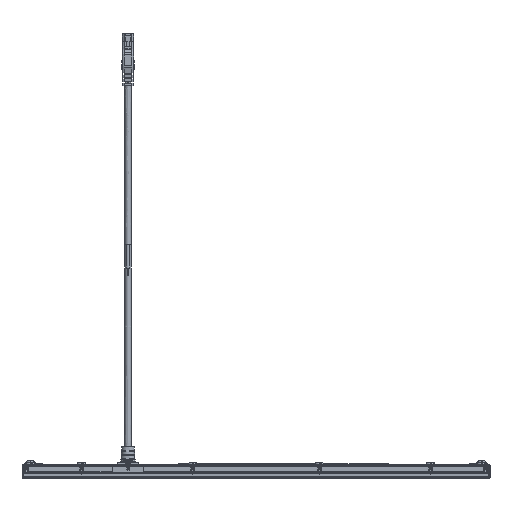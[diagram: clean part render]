
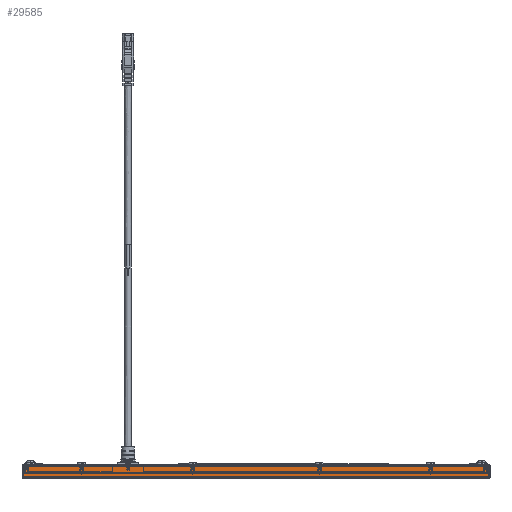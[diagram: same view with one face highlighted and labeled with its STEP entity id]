
A CAD part, left-side view. The second image highlights one B-rep face of the part: STEP entity #29585.
In plain terms, the highlighted free-form (B-spline) face has degree [3, 3] with [7, 4] control points.
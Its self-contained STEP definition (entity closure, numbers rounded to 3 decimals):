
#1217=CARTESIAN_POINT('',(-597.5,147.5,0.5));
#1260=CARTESIAN_POINT('',(-597.5,-147.5,0.5));
#1261=CARTESIAN_POINT('',(-597.522,-147.522,
1.327));
#1262=CARTESIAN_POINT('',(-597.538,-147.538,
3.001));
#1263=CARTESIAN_POINT('',(-597.516,-147.516,
5.57));
#1264=CARTESIAN_POINT('',(-597.5,-147.5,7.321));
#1265=CARTESIAN_POINT('',(-597.5,-147.5,8.206));
#1394=DIRECTION('',(0.,-1.,0.));
#1395=VECTOR('',#1394,295.);
#1396=CARTESIAN_POINT('',(-597.5,147.5,0.5));
#1397=LINE('',#1396,#1395);
#1405=DIRECTION('',(0.,0.,-1.));
#1406=VECTOR('',#1405,7.706);
#1407=CARTESIAN_POINT('',(-597.5,147.5,8.206));
#1408=LINE('',#1407,#1406);
#1418=DIRECTION('',(0.,1.,0.));
#1419=VECTOR('',#1418,295.);
#1420=CARTESIAN_POINT('',(-597.5,-147.5,8.206));
#1421=LINE('',#1420,#1419);
#21321=VERTEX_POINT('',#1217);
#21322=CARTESIAN_POINT('',(-597.5,147.5,8.206));
#21323=VERTEX_POINT('',#21322);
#21397=CARTESIAN_POINT('',(-597.5,-147.5,8.206));
#21398=VERTEX_POINT('',#21397);
#21399=VERTEX_POINT('',#1260);
#29549=CARTESIAN_POINT('',(-597.48,-153.431,
-0.26));
#29550=CARTESIAN_POINT('',(-597.596,-153.431,
2.814));
#29551=CARTESIAN_POINT('',(-597.483,-153.431,
5.891));
#29552=CARTESIAN_POINT('',(-597.502,-153.431,
8.966));
#29553=CARTESIAN_POINT('',(-597.461,-126.871,
-0.26));
#29554=CARTESIAN_POINT('',(-597.572,-126.871,
2.814));
#29555=CARTESIAN_POINT('',(-597.487,-126.871,
5.891));
#29556=CARTESIAN_POINT('',(-597.502,-126.871,
8.966));
#29557=CARTESIAN_POINT('',(-597.444,-75.727,
-0.259));
#29558=CARTESIAN_POINT('',(-597.542,-75.727,
2.815));
#29559=CARTESIAN_POINT('',(-597.493,-75.727,
5.891));
#29560=CARTESIAN_POINT('',(-597.501,-75.727,
8.966));
#29561=CARTESIAN_POINT('',(-597.459,0.,
-0.259));
#29562=CARTESIAN_POINT('',(-597.521,0.,
2.815));
#29563=CARTESIAN_POINT('',(-597.497,0.,
5.891));
#29564=CARTESIAN_POINT('',(-597.5,0.,
8.966));
#29565=CARTESIAN_POINT('',(-597.488,75.717,
-0.26));
#29566=CARTESIAN_POINT('',(-597.504,75.717,
2.815));
#29567=CARTESIAN_POINT('',(-597.499,75.717,
5.891));
#29568=CARTESIAN_POINT('',(-597.5,75.717,
8.966));
#29569=CARTESIAN_POINT('',(-597.501,126.85,
-0.26));
#29570=CARTESIAN_POINT('',(-597.5,126.85,
2.815));
#29571=CARTESIAN_POINT('',(-597.5,126.85,
5.891));
#29572=CARTESIAN_POINT('',(-597.5,126.85,
8.966));
#29573=CARTESIAN_POINT('',(-597.5,153.401,
-0.26));
#29574=CARTESIAN_POINT('',(-597.5,153.401,
2.815));
#29575=CARTESIAN_POINT('',(-597.5,153.401,
5.891));
#29576=CARTESIAN_POINT('',(-597.5,153.401,
8.966));
#29577=B_SPLINE_SURFACE_WITH_KNOTS('',3,3,((#29549,#29550,#29551,#29552),
(#29553,#29554,#29555,#29556),(#29557,#29558,#29559,#29560),(#29561,#29562,
#29563,#29564),(#29565,#29566,#29567,#29568),(#29569,#29570,#29571,#29572),(
#29573,#29574,#29575,#29576)),.UNSPECIFIED.,.F.,.F.,.F.,(4,1,1,1,4),(4,4),(
-0.02,0.25,0.5,0.75,1.02),(-0.099,
1.099),.UNSPECIFIED.);
#29578=ORIENTED_EDGE('',*,*,#29168,.F.);
#29580=ORIENTED_EDGE('',*,*,#29579,.F.);
#29581=ORIENTED_EDGE('',*,*,#29264,.F.);
#29582=ORIENTED_EDGE('',*,*,#29541,.F.);
#29583=EDGE_LOOP('',(#29578,#29580,#29581,#29582));
#29584=FACE_OUTER_BOUND('',#29583,.F.);
#29585=ADVANCED_FACE('',(#29584),#29577,.F.);
#1266=B_SPLINE_CURVE_WITH_KNOTS('',3,(#1260,#1261,#1262,#1263,#1264,#1265),
.UNSPECIFIED.,.F.,.F.,(4,1,1,4),(0.,0.333,0.667,1.),
.UNSPECIFIED.);
#29168=EDGE_CURVE('',#21323,#21321,#1408,.T.);
#29264=EDGE_CURVE('',#21399,#21398,#1266,.T.);
#29541=EDGE_CURVE('',#21321,#21399,#1397,.T.);
#29579=EDGE_CURVE('',#21398,#21323,#1421,.T.);
